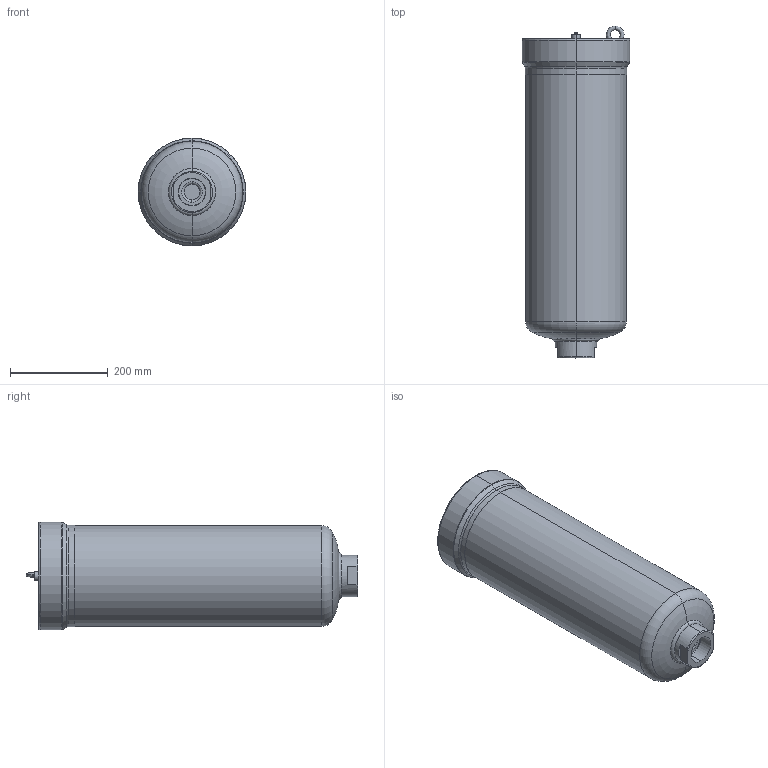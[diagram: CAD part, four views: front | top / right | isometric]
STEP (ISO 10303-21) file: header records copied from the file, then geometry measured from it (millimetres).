
FILE_DESCRIPTION (( 'STEP AP214' ), '1' );
FILE_NAME ('U150A03X1-AI.STEP', '2025-05-28T10:09:07', ( '' ), ( '' ), 'SwSTEP 2.0', 'SolidWorks 2024', '' );
FILE_SCHEMA (( 'AUTOMOTIVE_DESIGN' ));
Length unit declared in the file: millimetre
Products named in the file (1): U150A03X1-AI
Bounding box: 220 x 677.49 x 220 mm (x, y, z)
Volume: 20162454.2 mm3; surface area: 503485.8 mm2
Topology: 6 solids, 6 shells, 283 faces, 640 edges, 382 vertices
Faces by surface type: plane 95, cylinder 82, torus 56, cone 37, bspline 10, sphere 3
Entity records: 10579 total; most frequent: CARTESIAN_POINT 4073, DIRECTION 1461, ORIENTED_EDGE 1262, EDGE_CURVE 631, AXIS2_PLACEMENT_3D 612, VERTEX_POINT 382, CIRCLE 338, EDGE_LOOP 321
